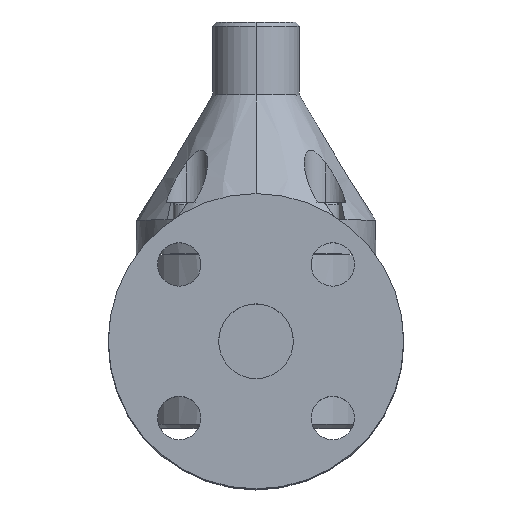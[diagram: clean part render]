
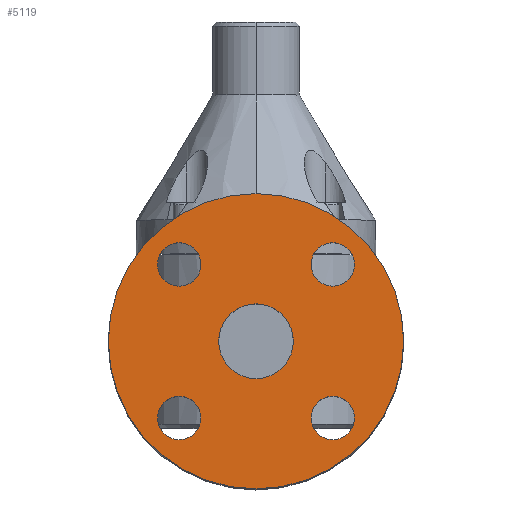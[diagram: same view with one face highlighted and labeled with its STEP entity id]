
A CAD part, top view. The second image highlights one B-rep face of the part: STEP entity #5119.
In plain terms, the highlighted planar face has unit normal (0, 0, 1).
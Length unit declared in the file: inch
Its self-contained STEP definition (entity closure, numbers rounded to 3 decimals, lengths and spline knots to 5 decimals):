
#7 = CARTESIAN_POINT ( 'NONE',  ( 1.10485, 0.14515, 3.75 ) ) ;
#32 = CARTESIAN_POINT ( 'NONE',  ( 1.10485, 0.14515, 3.75 ) ) ;
#42 = CARTESIAN_POINT ( 'NONE',  ( 0., 1.25, 3.75 ) ) ;
#167 = CIRCLE ( 'NONE', #2019, 0.3125 ) ;
#473 = CIRCLE ( 'NONE', #5536, 0.3125 ) ;
#495 = DIRECTION ( 'NONE',  ( -1., 0., 0. ) ) ;
#521 = DIRECTION ( 'NONE',  ( 0., 0., 1. ) ) ;
#526 = DIRECTION ( 'NONE',  ( -1., 0., 0. ) ) ;
#546 = DIRECTION ( 'NONE',  ( 1., 0., 0. ) ) ;
#597 = ORIENTED_EDGE ( 'NONE', *, *, #1031, .F. ) ;
#835 = EDGE_LOOP ( 'NONE', ( #1981, #2402 ) ) ;
#877 = FACE_OUTER_BOUND ( 'NONE', #1867, .T. ) ;
#977 = VERTEX_POINT ( 'NONE', #3531 ) ;
#984 = EDGE_CURVE ( 'NONE', #4894, #3136, #2223, .T. ) ;
#991 = CARTESIAN_POINT ( 'NONE',  ( -2.125, 1.25, 3.75 ) ) ;
#995 = EDGE_CURVE ( 'NONE', #3952, #1945, #473, .T. ) ;
#1019 = EDGE_CURVE ( 'NONE', #977, #4145, #3607, .T. ) ;
#1025 = EDGE_CURVE ( 'NONE', #2659, #4546, #167, .T. ) ;
#1031 = EDGE_CURVE ( 'NONE', #3640, #3259, #1576, .T. ) ;
#1054 = EDGE_CURVE ( 'NONE', #4229, #1285, #1286, .T. ) ;
#1061 = DIRECTION ( 'NONE',  ( 0., 0., 1. ) ) ;
#1065 = AXIS2_PLACEMENT_3D ( 'NONE', #4807, #2373, #5231 ) ;
#1194 = AXIS2_PLACEMENT_3D ( 'NONE', #2574, #5445, #2968 ) ;
#1258 = CARTESIAN_POINT ( 'NONE',  ( -0.79235, 2.35485, 3.75 ) ) ;
#1268 = DIRECTION ( 'NONE',  ( 0., 0., 1. ) ) ;
#1285 = VERTEX_POINT ( 'NONE', #2160 ) ;
#1286 = CIRCLE ( 'NONE', #3039, 2.125 ) ;
#1300 = CARTESIAN_POINT ( 'NONE',  ( -0.5375, 1.25, 3.75 ) ) ;
#1504 = ORIENTED_EDGE ( 'NONE', *, *, #5226, .F. ) ;
#1546 = ORIENTED_EDGE ( 'NONE', *, *, #2381, .F. ) ;
#1576 = CIRCLE ( 'NONE', #4688, 0.3125 ) ;
#1629 = PLANE ( 'NONE',  #4879 ) ;
#1867 = EDGE_LOOP ( 'NONE', ( #4694, #2074 ) ) ;
#1909 = AXIS2_PLACEMENT_3D ( 'NONE', #32, #3111, #526 ) ;
#1945 = VERTEX_POINT ( 'NONE', #3608 ) ;
#1981 = ORIENTED_EDGE ( 'NONE', *, *, #1019, .F. ) ;
#2014 = EDGE_LOOP ( 'NONE', ( #4457, #2808 ) ) ;
#2019 = AXIS2_PLACEMENT_3D ( 'NONE', #4738, #2304, #5166 ) ;
#2054 = DIRECTION ( 'NONE',  ( 1., 0., 0. ) ) ;
#2060 = FACE_BOUND ( 'NONE', #3519, .T. ) ;
#2074 = ORIENTED_EDGE ( 'NONE', *, *, #1054, .T. ) ;
#2134 = CIRCLE ( 'NONE', #4040, 2.125 ) ;
#2160 = CARTESIAN_POINT ( 'NONE',  ( 2.125, 1.25, 3.75 ) ) ;
#2187 = FACE_BOUND ( 'NONE', #3644, .T. ) ;
#2223 = CIRCLE ( 'NONE', #5255, 0.5375 ) ;
#2250 = DIRECTION ( 'NONE',  ( 0., 0., 1. ) ) ;
#2304 = DIRECTION ( 'NONE',  ( 0., 0., 1. ) ) ;
#2328 = DIRECTION ( 'NONE',  ( 0., 0., 1. ) ) ;
#2373 = DIRECTION ( 'NONE',  ( 0., 0., 1. ) ) ;
#2381 = EDGE_CURVE ( 'NONE', #3259, #3640, #5503, .T. ) ;
#2402 = ORIENTED_EDGE ( 'NONE', *, *, #2536, .F. ) ;
#2528 = ORIENTED_EDGE ( 'NONE', *, *, #1025, .F. ) ;
#2536 = EDGE_CURVE ( 'NONE', #4145, #977, #4846, .T. ) ;
#2574 = CARTESIAN_POINT ( 'NONE',  ( -1.10485, 2.35485, 3.75 ) ) ;
#2581 = CARTESIAN_POINT ( 'NONE',  ( 0., 1.25, 3.75 ) ) ;
#2649 = CIRCLE ( 'NONE', #4788, 0.3125 ) ;
#2659 = VERTEX_POINT ( 'NONE', #3553 ) ;
#2742 = CARTESIAN_POINT ( 'NONE',  ( 0.5375, 1.25, 3.75 ) ) ;
#2808 = ORIENTED_EDGE ( 'NONE', *, *, #3874, .F. ) ;
#2848 = CARTESIAN_POINT ( 'NONE',  ( -1.41735, 0.14515, 3.75 ) ) ;
#2968 = DIRECTION ( 'NONE',  ( 1., 0., 0. ) ) ;
#2972 = DIRECTION ( 'NONE',  ( 1., 0., 0. ) ) ;
#3039 = AXIS2_PLACEMENT_3D ( 'NONE', #42, #3122, #546 ) ;
#3043 = CARTESIAN_POINT ( 'NONE',  ( -1.41735, 2.35485, 3.75 ) ) ;
#3086 = DIRECTION ( 'NONE',  ( 0., 0., 1. ) ) ;
#3108 = CARTESIAN_POINT ( 'NONE',  ( -1.10485, 2.35485, 3.75 ) ) ;
#3111 = DIRECTION ( 'NONE',  ( 0., 0., 1. ) ) ;
#3122 = DIRECTION ( 'NONE',  ( 0., 0., 1. ) ) ;
#3136 = VERTEX_POINT ( 'NONE', #1300 ) ;
#3142 = FACE_BOUND ( 'NONE', #5409, .T. ) ;
#3259 = VERTEX_POINT ( 'NONE', #3043 ) ;
#3268 = AXIS2_PLACEMENT_3D ( 'NONE', #4771, #2328, #5194 ) ;
#3297 = FACE_BOUND ( 'NONE', #2014, .T. ) ;
#3324 = CIRCLE ( 'NONE', #1065, 0.3125 ) ;
#3325 = EDGE_CURVE ( 'NONE', #4546, #2659, #3324, .T. ) ;
#3501 = DIRECTION ( 'NONE',  ( 1., 0., 0. ) ) ;
#3519 = EDGE_LOOP ( 'NONE', ( #597, #1546 ) ) ;
#3531 = CARTESIAN_POINT ( 'NONE',  ( 1.41735, 0.14515, 3.75 ) ) ;
#3549 = CARTESIAN_POINT ( 'NONE',  ( 0., 1.25, 3.75 ) ) ;
#3553 = CARTESIAN_POINT ( 'NONE',  ( -0.79235, 0.14515, 3.75 ) ) ;
#3607 = CIRCLE ( 'NONE', #4416, 0.3125 ) ;
#3608 = CARTESIAN_POINT ( 'NONE',  ( 0.79235, 2.35485, 3.75 ) ) ;
#3640 = VERTEX_POINT ( 'NONE', #1258 ) ;
#3644 = EDGE_LOOP ( 'NONE', ( #2528, #3684 ) ) ;
#3684 = ORIENTED_EDGE ( 'NONE', *, *, #3325, .F. ) ;
#3693 = CIRCLE ( 'NONE', #3268, 0.5375 ) ;
#3718 = CARTESIAN_POINT ( 'NONE',  ( 1.10485, 2.35485, 3.75 ) ) ;
#3853 = CARTESIAN_POINT ( 'NONE',  ( 0.79235, 0.14515, 3.75 ) ) ;
#3874 = EDGE_CURVE ( 'NONE', #3136, #4894, #3693, .T. ) ;
#3951 = DIRECTION ( 'NONE',  ( 1., 0., 0. ) ) ;
#3952 = VERTEX_POINT ( 'NONE', #4392 ) ;
#3989 = EDGE_CURVE ( 'NONE', #1285, #4229, #2134, .T. ) ;
#4040 = AXIS2_PLACEMENT_3D ( 'NONE', #2581, #5449, #2972 ) ;
#4129 = DIRECTION ( 'NONE',  ( 0., -1., 0. ) ) ;
#4145 = VERTEX_POINT ( 'NONE', #3853 ) ;
#4222 = FACE_BOUND ( 'NONE', #835, .T. ) ;
#4229 = VERTEX_POINT ( 'NONE', #991 ) ;
#4281 = ORIENTED_EDGE ( 'NONE', *, *, #995, .F. ) ;
#4392 = CARTESIAN_POINT ( 'NONE',  ( 1.41735, 2.35485, 3.75 ) ) ;
#4416 = AXIS2_PLACEMENT_3D ( 'NONE', #7, #3086, #495 ) ;
#4457 = ORIENTED_EDGE ( 'NONE', *, *, #984, .F. ) ;
#4497 = DIRECTION ( 'NONE',  ( 0., 0., 1. ) ) ;
#4546 = VERTEX_POINT ( 'NONE', #2848 ) ;
#4688 = AXIS2_PLACEMENT_3D ( 'NONE', #3108, #521, #3501 ) ;
#4694 = ORIENTED_EDGE ( 'NONE', *, *, #3989, .T. ) ;
#4699 = CARTESIAN_POINT ( 'NONE',  ( 1.10485, 2.35485, 3.75 ) ) ;
#4738 = CARTESIAN_POINT ( 'NONE',  ( -1.10485, 0.14515, 3.75 ) ) ;
#4771 = CARTESIAN_POINT ( 'NONE',  ( 0., 1.25, 3.75 ) ) ;
#4788 = AXIS2_PLACEMENT_3D ( 'NONE', #3718, #1268, #4129 ) ;
#4807 = CARTESIAN_POINT ( 'NONE',  ( -1.10485, 0.14515, 3.75 ) ) ;
#4846 = CIRCLE ( 'NONE', #1909, 0.3125 ) ;
#4879 = AXIS2_PLACEMENT_3D ( 'NONE', #5321, #4497, #2054 ) ;
#4894 = VERTEX_POINT ( 'NONE', #2742 ) ;
#5118 = DIRECTION ( 'NONE',  ( 0., -1., 0. ) ) ;
#5119 = ADVANCED_FACE ( 'NONE', ( #3297, #3142, #4222, #2187, #2060, #877 ), #1629, .T. ) ;
#5166 = DIRECTION ( 'NONE',  ( 0., 1., 0. ) ) ;
#5194 = DIRECTION ( 'NONE',  ( 1., 0., 0. ) ) ;
#5226 = EDGE_CURVE ( 'NONE', #1945, #3952, #2649, .T. ) ;
#5231 = DIRECTION ( 'NONE',  ( 0., 1., 0. ) ) ;
#5255 = AXIS2_PLACEMENT_3D ( 'NONE', #3549, #1061, #3951 ) ;
#5321 = CARTESIAN_POINT ( 'NONE',  ( 0., 1.25, 3.75 ) ) ;
#5409 = EDGE_LOOP ( 'NONE', ( #4281, #1504 ) ) ;
#5445 = DIRECTION ( 'NONE',  ( 0., 0., 1. ) ) ;
#5449 = DIRECTION ( 'NONE',  ( 0., 0., 1. ) ) ;
#5503 = CIRCLE ( 'NONE', #1194, 0.3125 ) ;
#5536 = AXIS2_PLACEMENT_3D ( 'NONE', #4699, #2250, #5118 ) ;
